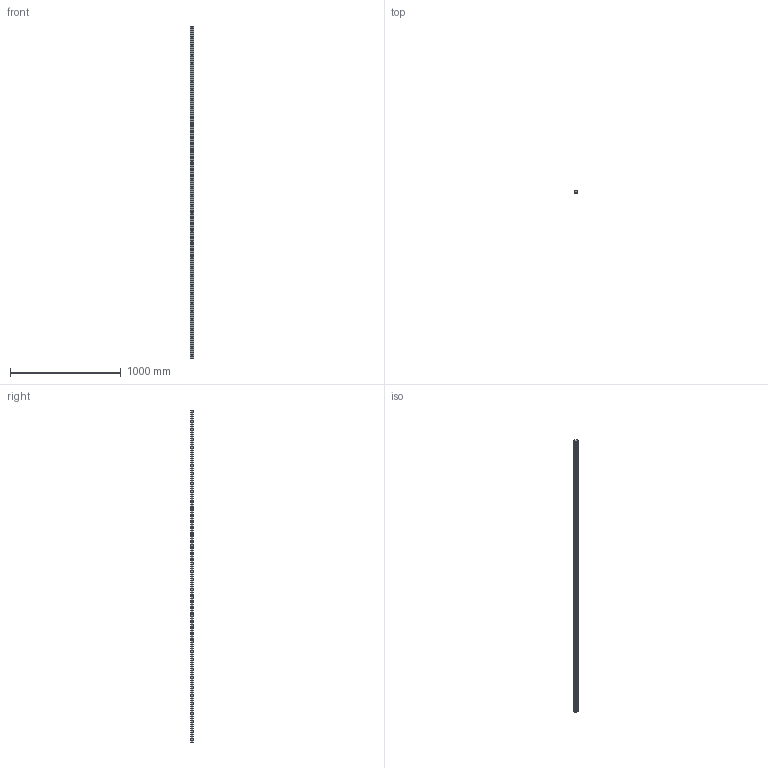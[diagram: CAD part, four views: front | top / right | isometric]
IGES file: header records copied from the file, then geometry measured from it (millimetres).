
Start section: SolidWorks IGES file using analytic representation for surfaces
Global section: file name: C:\Users\IanO\Desktop\Temp File\GENERAL\L1016_v2\L1016.RF35_v2\L1016.RF35_v2_20190612_IGES\L1016.RF35-3000.igs; native system: SolidWorks 2017; preprocessor: SolidWorks 2017; author: IanO; date: 190613.173213; units: millimetre
Bounding box: 34 x 26 x 3000 mm (x, y, z)
Surface area: 390784.1 mm2 (no closed solid volume)
Topology: 0 solids, 0 shells, 292 faces, 4728 edges, 4652 vertices
Faces by surface type: revolution 232, bspline 60
